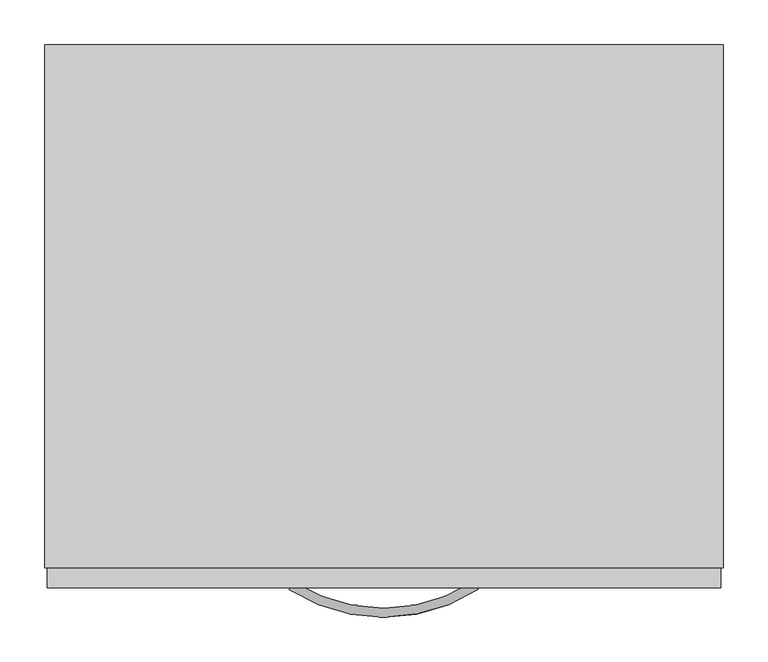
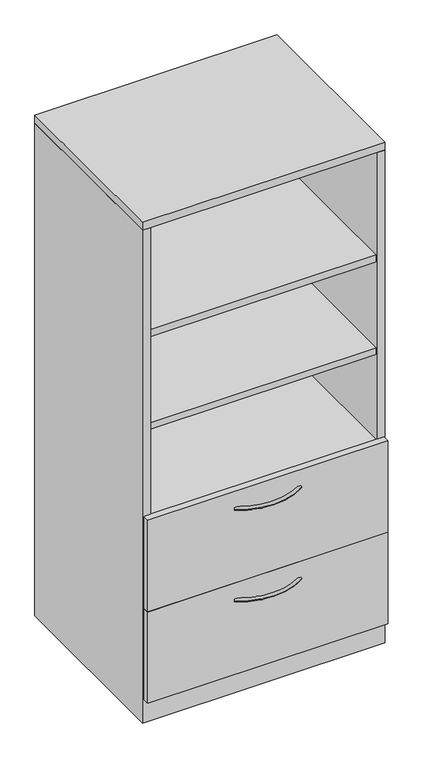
"""IFC4 building model written with IfcOpenShell, lengths in millimetres: furniture geometry, Steelcase - Universal Storage - Cabinet - Combination - Proud Steel : 65 1/2H - Open Cabinet/2 Drawers - 24D x 30W."""

from ifc_helpers import new_model, si_unit, point, frame, origin, place, context, project, spatial, polyline, circle_curve, ellipse_curve, trimmed, outline, extrude, faceted_brep, source, transform, mapped, element, save
from ifc_brep_helpers import plane_surface, revolved_surface, advanced_brep


def furniture_537f5315(model_context):
    return source(origin(), model_context, "Body", "SolidModel", [
        extrude(outline(polyline([(736.6000242, 104.6479992), (736.6000242, -454.0250121), (25.4000008, -454.0250121), (25.4000008, 104.6479992), (736.6000242, 104.6479992)])), frame((0.0, 0.0, 660.4000242), z_axis=(0.0, 0.0, 1.0), x_axis=(1.0, 0.0, 0.0)), (0.0, 0.0, 1.0), 22.2249516),
        extrude(outline(polyline([(736.6000242, 104.6479992), (736.6000242, -454.0250121), (25.4000008, -454.0250121), (25.4000008, 104.6479992), (736.6000242, 104.6479992)])), frame((0.0, 0.0, 965.2000242), z_axis=(0.0, 0.0, 1.0), x_axis=(1.0, 0.0, 0.0)), (0.0, 0.0, 1.0), 22.2249516),
        extrude(outline(polyline([(736.6000242, 104.6479992), (736.6000242, -454.0250121), (25.4000008, -454.0250121), (25.4000008, 104.6479992), (736.6000242, 104.6479992)])), frame((0.0, 0.0, 1273.1750484), z_axis=(0.0, 0.0, 1.0), x_axis=(1.0, 0.0, 0.0)), (0.0, 0.0, 1.0), 22.2249516),
        advanced_brep(
        [(274.4245932, -481.5705994, 323.56425), (279.8977519, -473.0108019, 323.56425), (486.7315136, -481.1337636, 323.56425), (481.2231767, -472.5965612, 323.56425)],
        [
            (0, 1, circle_curve(frame((277.1611726, -477.2907007, 323.56425), z_axis=(-0.8424997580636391, 0.5386967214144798, 0.0), x_axis=(0.5386967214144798, 0.8424997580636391, 0.0)), 5.08)),
            (1, 0, circle_curve(frame((277.1611726, -477.2907007, 323.56425), z_axis=(-0.8424997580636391, 0.5386967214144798, 0.0), x_axis=(0.5386967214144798, 0.8424997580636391, 0.0)), 5.08)),
            (2, 3, circle_curve(frame((483.9773452, -476.8651624, 323.56425), z_axis=(0.8402758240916, 0.5421591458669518, 0.0), x_axis=(-0.5421591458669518, 0.8402758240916, 0.0)), 5.08)),
            (3, 2, circle_curve(frame((483.9773452, -476.8651624, 323.56425), z_axis=(0.8402758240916, 0.5421591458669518, 0.0), x_axis=(-0.5421591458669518, 0.8402758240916, 0.0)), 5.08)),
            (3, 1, circle_curve(frame((380.2380004, -316.0827352, 323.56425), z_axis=(0.0, 0.0, -1.0), x_axis=(-0.5386967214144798, -0.8424997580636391, 0.0)), 186.2648211)),
            (0, 2, circle_curve(frame((380.2380004, -316.0827352, 323.56425), z_axis=(0.0, 0.0, 1.0), x_axis=(-0.5386967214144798, -0.8424997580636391, 0.0)), 196.4248211)),
        ],
        [
            plane_surface(frame((277.5794521, -476.6365286, 324.358), z_axis=(-0.8424997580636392, 0.5386967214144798, 0.0), x_axis=(0.0, 0.0, 1.0))),
            plane_surface(frame((483.5563772, -476.2127171, 324.358), z_axis=(0.8402758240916, 0.5421591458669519, 0.0), x_axis=(0.0, 0.0, 1.0))),
            revolved_surface(trimmed(ellipse_curve(frame((277.1611726, -477.2907007, 323.56425), z_axis=(-0.8424997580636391, 0.5386967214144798, 0.0), x_axis=(0.5386967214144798, 0.8424997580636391, 0.0)), 5.08, 5.08), [point((274.4245932, -481.5705994, 323.56425))], [point((279.8977519, -473.0108019, 323.56425))], True, "CARTESIAN"), (380.2380004, -316.0827352, 324.358), (0.0, 0.0, 1.0)),
            revolved_surface(trimmed(ellipse_curve(frame((277.1611726, -477.2907007, 323.56425), z_axis=(-0.8424997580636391, 0.5386967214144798, 0.0), x_axis=(0.5386967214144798, 0.8424997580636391, 0.0)), 5.08, 5.08), [point((279.8977519, -473.0108019, 323.56425))], [point((274.4245932, -481.5705994, 323.56425))], True, "CARTESIAN"), (380.2380004, -316.0827352, 324.358), (0.0, 0.0, 1.0)),
        ],
        [
            (0, [[1, 2]]),
            (1, [[3, 4]]),
            (2, [[5, -1, 6, -4]]),
            (3, [[-6, -2, -5, -3]]),
        ],
    ),
        advanced_brep(
        [(274.4245932, -481.5705994, 627.85625), (279.8977519, -473.0108019, 627.85625), (486.7315136, -481.1337636, 627.85625), (481.2231767, -472.5965612, 627.85625)],
        [
            (0, 1, circle_curve(frame((277.1611726, -477.2907007, 627.85625), z_axis=(-0.8424997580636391, 0.5386967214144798, 0.0), x_axis=(0.5386967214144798, 0.8424997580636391, 0.0)), 5.08)),
            (1, 0, circle_curve(frame((277.1611726, -477.2907007, 627.85625), z_axis=(-0.8424997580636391, 0.5386967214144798, 0.0), x_axis=(0.5386967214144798, 0.8424997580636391, 0.0)), 5.08)),
            (2, 3, circle_curve(frame((483.9773452, -476.8651624, 627.85625), z_axis=(0.8402758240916, 0.5421591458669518, 0.0), x_axis=(-0.5421591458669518, 0.8402758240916, 0.0)), 5.08)),
            (3, 2, circle_curve(frame((483.9773452, -476.8651624, 627.85625), z_axis=(0.8402758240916, 0.5421591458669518, 0.0), x_axis=(-0.5421591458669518, 0.8402758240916, 0.0)), 5.08)),
            (3, 1, circle_curve(frame((380.2380004, -316.0827352, 627.85625), z_axis=(0.0, 0.0, -1.0), x_axis=(-0.5386967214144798, -0.8424997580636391, 0.0)), 186.2648211)),
            (0, 2, circle_curve(frame((380.2380004, -316.0827352, 627.85625), z_axis=(0.0, 0.0, 1.0), x_axis=(-0.5386967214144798, -0.8424997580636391, 0.0)), 196.4248211)),
        ],
        [
            plane_surface(frame((277.5794521, -476.6365286, 628.65), z_axis=(-0.8424997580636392, 0.5386967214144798, 0.0), x_axis=(0.0, 0.0, 1.0))),
            plane_surface(frame((483.5563772, -476.2127171, 628.65), z_axis=(0.8402758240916, 0.5421591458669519, 0.0), x_axis=(0.0, 0.0, 1.0))),
            revolved_surface(trimmed(ellipse_curve(frame((277.1611726, -477.2907007, 627.85625), z_axis=(-0.8424997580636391, 0.5386967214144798, 0.0), x_axis=(0.5386967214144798, 0.8424997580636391, 0.0)), 5.08, 5.08), [point((274.4245932, -481.5705994, 627.85625))], [point((279.8977519, -473.0108019, 627.85625))], True, "CARTESIAN"), (380.2380004, -316.0827352, 628.65), (0.0, 0.0, 1.0)),
            revolved_surface(trimmed(ellipse_curve(frame((277.1611726, -477.2907007, 627.85625), z_axis=(-0.8424997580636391, 0.5386967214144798, 0.0), x_axis=(0.5386967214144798, 0.8424997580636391, 0.0)), 5.08, 5.08), [point((279.8977519, -473.0108019, 627.85625))], [point((274.4245932, -481.5705994, 627.85625))], True, "CARTESIAN"), (380.2380004, -316.0827352, 628.65), (0.0, 0.0, 1.0)),
        ],
        [
            (0, [[1, 2]]),
            (1, [[3, 4]]),
            (2, [[5, -1, 6, -4]]),
            (3, [[-6, -2, -5, -3]]),
        ],
    ),
        faceted_brep([(25.4000008, -457.3261219, 76.2), (736.6000242, -457.3261219, 76.2), (736.6000242, 104.6479992, 76.2), (25.4000008, 104.6479992, 76.2), (762.0, 130.048, 0.0), (762.0, -457.3261219, 0.0), (0.0, -457.3261219, 0.0), (0.0, 130.048, 0.0), (0.0, 130.048, 1636.776), (762.0, 130.048, 1636.776), (0.0, -457.3261219, 1636.776), (762.0, -457.3261219, 1636.776), (736.6000242, -457.3261219, 1636.776), (25.4000008, -457.3261219, 1636.776), (736.6000242, 104.6479992, 1636.776), (25.4000008, 104.6479992, 1636.776)], [[[0, 1, 2, 3]], [[4, 5, 6, 7]], [[4, 7, 8, 9]], [[8, 7, 6, 10]], [[10, 6, 5, 11, 12, 1, 0, 13]], [[11, 5, 4, 9]], [[14, 12, 11, 9, 8, 10, 13, 15]], [[12, 14, 2, 1]], [[15, 13, 0, 3]], [[14, 15, 3, 2]]]),
        extrude(outline(polyline([(758.8225413, -479.552), (3.1725353, -479.552), (3.1725353, -457.3261219), (758.8225413, -457.3261219), (758.8225413, -479.552)])), frame((0.0, 0.0, 77.724), z_axis=(0.0, 0.0, 1.0), x_axis=(1.0, 0.0, 0.0)), (0.0, 0.0, 1.0), 303.276),
        extrude(outline(polyline([(758.8225413, -479.552), (3.1725353, -479.552), (3.1725353, -457.3261219), (758.8225413, -457.3261219), (758.8225413, -479.552)])), frame((0.0, 0.0, 382.524), z_axis=(0.0, 0.0, 1.0), x_axis=(1.0, 0.0, 0.0)), (0.0, 0.0, 1.0), 303.276),
        extrude(outline(polyline([(762.0, 130.048), (762.0, -457.3261219), (0.0, -457.3261219), (0.0, 130.048), (762.0, 130.048)])), frame((0.0, 0.0, 1638.2999516), z_axis=(0.0, 0.0, 1.0), x_axis=(1.0, 0.0, 0.0)), (0.0, 0.0, 1.0), 25.4000484),
    ])


if __name__ == "__main__":
    model = new_model("IFC4")
    model_context = context("Model", 3, world=origin())
    ifc_project = project(units=[si_unit("LENGTHUNIT", "METRE", prefix="MILLI")], contexts=[model_context])
    site = spatial("IfcSite", under=ifc_project)
    building = spatial("IfcBuilding", under=site)
    placement = place(None, origin())
    furniture_shape = furniture_537f5315(model_context)
    element("IfcFurniture", 1, ObjectType="Steelcase - Universal Storage - Cabinet - Combination - Proud Steel : 65 1/2H - Open Cabinet/2 Drawers - 24D x 30W", at=placement, inside=building, context=model_context, shape_type="MappedRepresentation", body=[
        mapped(furniture_shape, transform((0.0, 0.0, 0.0), x_axis=(1.0, 0.0, 0.0), y_axis=(0.0, 1.0, 0.0), z_axis=(0.0, 0.0, 1.0))),
    ])
    save(model, "model.ifc")
